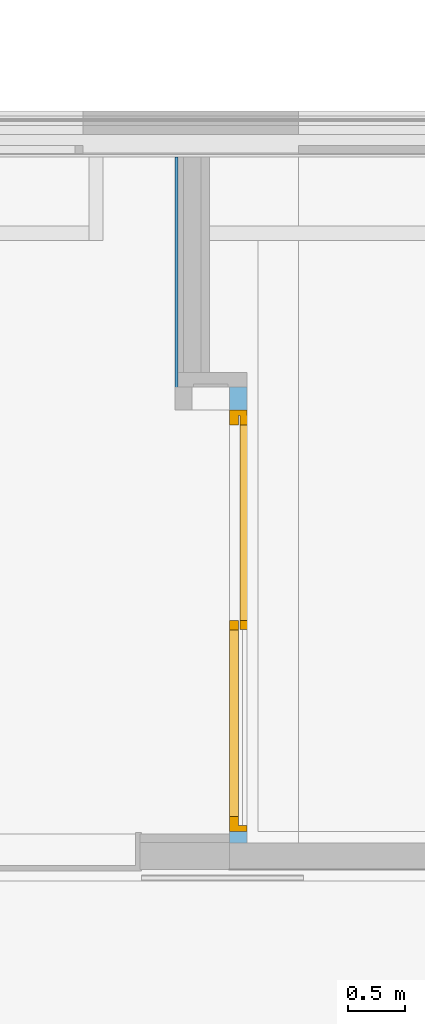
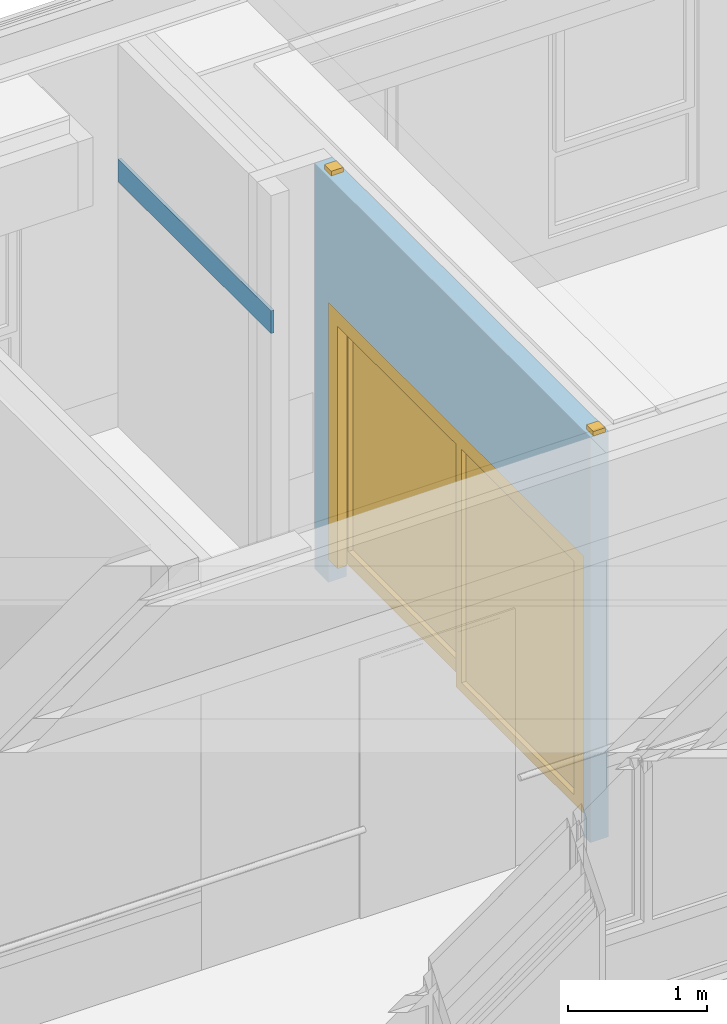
# One storey, part 117 of 207: 1 door, 1 wall, 1 opening, plus 1 element that does not belong to this part.
"""IFC4 building model written with IfcOpenShell, lengths in metres."""

import ifcopenshell
import ifcopenshell.guid

model = None  # the IFC model being written
_history = None  # IfcOwnerHistory: only IFC2X3 demands one
_inside = {}  # id of a spatial element -> (the spatial element, [elements in it])
_under = {}  # id of a project, library or spatial element -> (it, [spatial elements below it])
_declared = {}  # id of a project -> (the project, [libraries it declares])
_typed = {}  # id of a type object -> (the type object, [elements of that type])
_made_of = {}  # id of a material, layer set ... -> (it, [elements and type objects made of it])


def new_model(schema):
    """Start an empty IFC model of exactly this schema.

    Asked for "IFC4X3", IfcOpenShell would pick the latest addendum, in which some entities
    have other attributes; the version numbers below select the first issue.
    IFC2X3 requires an IfcOwnerHistory on every rooted entity: one is made here for all.
    """
    global model, _history
    if schema == "IFC4X3":
        model = ifcopenshell.file(schema_version=(4, 3, 0, 0))
    else:
        model = ifcopenshell.file(schema=schema)
    _inside.clear()
    _under.clear()
    _declared.clear()
    _typed.clear()
    _made_of.clear()
    _history = None
    if model.schema == "IFC2X3":
        org = make("IfcOrganization", Name="unknown")
        user = make(
            "IfcPersonAndOrganization",
            ThePerson=make("IfcPerson", FamilyName="unknown"),
            TheOrganization=org,
        )
        app = make(
            "IfcApplication",
            ApplicationDeveloper=org,
            Version="unknown",
            ApplicationFullName="unknown",
            ApplicationIdentifier="unknown",
        )
        _history = make(
            "IfcOwnerHistory",
            OwningUser=user,
            OwningApplication=app,
            ChangeAction="ADDED",
            CreationDate=0,
        )
    return model


def make(cls, **values):
    """One entity of the class cls with the attributes given. An attribute that is None is left unset."""
    return model.create_entity(
        cls, **{name: value for name, value in values.items() if value is not None}
    )


def entity(cls, *values):
    """Any entity or typed value of the class cls, its attributes in the order of the schema. None: left unset."""
    e = model.create_entity(cls)
    for i, value in enumerate(values):
        if value is not None:
            e[i] = value
    return e


def rooted(cls, **values):
    """An entity with a GlobalId (a new one), such as an element, a storey or a relation."""
    return make(cls, GlobalId=ifcopenshell.guid.new(), OwnerHistory=_history, **values)


def si_unit(unit_type, name, prefix=None):
    """IfcSIUnit, for example si_unit("LENGTHUNIT", "METRE", prefix="MILLI")."""
    return make("IfcSIUnit", UnitType=unit_type, Prefix=prefix, Name=name)


def converted_unit(unit_type, name, factor, base, dimensions=None, offset=None):
    """IfcConversionBasedUnit, such as the inch: factor (a typed value) times the base unit."""
    return make(
        "IfcConversionBasedUnit"
        if offset is None
        else "IfcConversionBasedUnitWithOffset",
        ConversionOffset=offset,
        Dimensions=None
        if dimensions is None
        else entity("IfcDimensionalExponents", *dimensions),
        UnitType=unit_type,
        Name=name,
        ConversionFactor=make(
            "IfcMeasureWithUnit", ValueComponent=factor, UnitComponent=base
        ),
    )


def derived_unit(unit_type, elements):
    """IfcDerivedUnit: a product of units, each with its exponent."""
    return make(
        "IfcDerivedUnit",
        Elements=[
            make("IfcDerivedUnitElement", Unit=unit, Exponent=power)
            for unit, power in elements
        ],
        UnitType=unit_type,
    )


def assignment(units):
    """IfcUnitAssignment: the units of a project."""
    return None if units is None else make("IfcUnitAssignment", Units=units)


def point(xyz):
    """IfcCartesianPoint."""
    return None if xyz is None else make("IfcCartesianPoint", Coordinates=xyz)


def direction(xyz):
    """IfcDirection."""
    return None if xyz is None else make("IfcDirection", DirectionRatios=xyz)


def frame(location, z_axis=None, x_axis=None):
    """IfcAxis2Placement3D, a coordinate frame: its origin and axes. An axis left out is left unset."""
    return make(
        "IfcAxis2Placement3D",
        Location=point(location),
        Axis=direction(z_axis),
        RefDirection=direction(x_axis),
    )


def frame_2d(location, x_axis=None):
    """IfcAxis2Placement2D, a coordinate frame in the plane: its origin and x axis."""
    return make(
        "IfcAxis2Placement2D", Location=point(location), RefDirection=direction(x_axis)
    )


def origin():
    """The frame at (0, 0, 0) with its axes left unset."""
    return frame((0.0, 0.0, 0.0))


def origin_with_axes():
    """The frame at (0, 0, 0) with the z axis (0, 0, 1) and the x axis (1, 0, 0) written out."""
    return frame((0.0, 0.0, 0.0), z_axis=(0.0, 0.0, 1.0), x_axis=(1.0, 0.0, 0.0))


def place(relative_to, where):
    """IfcLocalPlacement: puts the frame where relative to a parent placement (None: the world)."""
    return make(
        "IfcLocalPlacement", PlacementRelTo=relative_to, RelativePlacement=where
    )


def context(
    kind, dimensions, precision=None, world=None, true_north=None, identifier=None
):
    """IfcGeometricRepresentationContext, for example the 3D "Model" context."""
    return make(
        "IfcGeometricRepresentationContext",
        ContextIdentifier=identifier,
        ContextType=kind,
        CoordinateSpaceDimension=dimensions,
        Precision=precision,
        WorldCoordinateSystem=world,
        TrueNorth=true_north,
    )


def subcontext(parent, identifier, kind, view, scale=None):
    """IfcGeometricRepresentationSubContext, for example "Body" below "Model"."""
    return make(
        "IfcGeometricRepresentationSubContext",
        ContextIdentifier=identifier,
        ContextType=kind,
        ParentContext=parent,
        TargetScale=scale,
        TargetView=view,
    )


def project(units=None, contexts=None):
    """IfcProject with its units and contexts."""
    return rooted(
        "IfcProject",
        Name="project",
        RepresentationContexts=contexts,
        UnitsInContext=assignment(units),
    )


def spatial(cls, under=None, at=None, **own):
    """A site, building, storey or space (cls), placed at a placement, below another one or the project."""
    s = rooted(cls, ObjectPlacement=at, **own)
    if under is not None:
        _under.setdefault(under.id(), (under, []))[1].append(s)
    return s


def polyline(points):
    """IfcPolyline through the points."""
    return make("IfcPolyline", Points=[point(p) for p in points])


def profile(cls, at=None, kind="AREA", **sizes):
    """A parametric profile (cls). Its sizes go by their IFC names, for example OverallWidth=200.0."""
    return make(cls, ProfileType=kind, Position=at, **sizes)


def rectangle(**sizes):
    """IfcRectangleProfileDef."""
    return profile("IfcRectangleProfileDef", **sizes)


def outline(outer, holes=None, kind="AREA"):
    """IfcArbitraryClosedProfileDef: a profile drawn as a closed curve; with holes, ...WithVoids."""
    if holes is None:
        return make("IfcArbitraryClosedProfileDef", ProfileType=kind, OuterCurve=outer)
    return make(
        "IfcArbitraryProfileDefWithVoids",
        ProfileType=kind,
        OuterCurve=outer,
        InnerCurves=holes,
    )


def extrude(swept, where, along, depth):
    """IfcExtrudedAreaSolid: the profile swept, set in the frame where, extruded along a direction by depth."""
    return make(
        "IfcExtrudedAreaSolid",
        SweptArea=swept,
        Position=where,
        ExtrudedDirection=direction(along),
        Depth=depth,
    )


def faces_of(points, faces, orient=None, outer=None):
    """IfcFace entities. A face is a list of loops; a loop is a list of indices into points, from 0.

    orient and outer hold one flag for each loop. By default every Orientation is true, the
    first loop of a face is its IfcFaceOuterBound and the others are IfcFaceBound.
    """
    made = []
    for i, loops in enumerate(faces):
        bounds = []
        for j, loop in enumerate(loops):
            is_outer = j == 0 if outer is None else outer[i][j]
            bounds.append(
                make(
                    "IfcFaceOuterBound" if is_outer else "IfcFaceBound",
                    Bound=make("IfcPolyLoop", Polygon=[points[k] for k in loop]),
                    Orientation=True if orient is None else orient[i][j],
                )
            )
        made.append(make("IfcFace", Bounds=bounds))
    return made


def closed_shell(faces, orient=None, outer=None):
    """The faces of one IfcClosedShell. faceted_brep and surface_model build it on their shared points."""
    return ("IfcClosedShell", faces, orient, outer)


def open_shell(faces, orient=None, outer=None):
    """The faces of one IfcOpenShell. surface_model builds it on its shared points."""
    return ("IfcOpenShell", faces, orient, outer)


def faceted_brep(points, faces, orient=None, outer=None, voids=None):
    """IfcFacetedBrep: a solid bounded by flat faces; with voids (closed shells), ...WithVoids."""
    shared = [point(p) for p in points]
    hull = make("IfcClosedShell", CfsFaces=faces_of(shared, faces, orient, outer))
    if voids is None:
        return make("IfcFacetedBrep", Outer=hull)
    return make(
        "IfcFacetedBrepWithVoids",
        Outer=hull,
        Voids=[
            make(cls, CfsFaces=faces_of(shared, fs, o, b)) for cls, fs, o, b in voids
        ],
    )


def surface_model(cls, points, shells):
    """IfcFaceBasedSurfaceModel or IfcShellBasedSurfaceModel (cls): surfaces that need not close."""
    shared = [point(p) for p in points]
    made = [make(c, CfsFaces=faces_of(shared, fs, o, b)) for c, fs, o, b in shells]
    if cls == "IfcFaceBasedSurfaceModel":
        return make(cls, FbsmFaces=made)
    return make(cls, SbsmBoundary=made)


def shape(context_of_items, identifier, shape_type, items):
    """IfcShapeRepresentation: the items that make up one representation, for example the "Body"."""
    return make(
        "IfcShapeRepresentation",
        ContextOfItems=context_of_items,
        RepresentationIdentifier=identifier,
        RepresentationType=shape_type,
        Items=items,
    )


def source(mapping_origin, context_of_items, identifier, shape_type, items):
    """IfcRepresentationMap: a shape defined once, which mapped items show again and again."""
    return make(
        "IfcRepresentationMap",
        MappingOrigin=mapping_origin,
        MappedRepresentation=shape(context_of_items, identifier, shape_type, items),
    )


def transform(
    local_origin,
    x_axis=None,
    y_axis=None,
    z_axis=None,
    scale=None,
    scale2=None,
    scale3=None,
    uniform=True,
):
    """IfcCartesianTransformationOperator3D, or its non-uniform kind. x_axis, y_axis, z_axis: its Axis1, 2, 3."""
    if uniform:
        return make(
            "IfcCartesianTransformationOperator3D",
            Axis1=direction(x_axis),
            Axis2=direction(y_axis),
            LocalOrigin=point(local_origin),
            Scale=scale,
            Axis3=direction(z_axis),
        )
    return make(
        "IfcCartesianTransformationOperator3DnonUniform",
        Axis1=direction(x_axis),
        Axis2=direction(y_axis),
        LocalOrigin=point(local_origin),
        Scale=scale,
        Axis3=direction(z_axis),
        Scale2=scale2,
        Scale3=scale3,
    )


def mapped(mapping_source, mapping_target):
    """IfcMappedItem: shows the shape of a source again, moved by a transform."""
    return make(
        "IfcMappedItem", MappingSource=mapping_source, MappingTarget=mapping_target
    )


def material(Name=None, Category=None):
    """IfcMaterial."""
    return make("IfcMaterial", Name=Name, Category=Category)


def made_of(thing, what):
    """Note that an element or type object is made of a material, layer set ...; save() writes the relation."""
    if what is not None:
        _made_of.setdefault(what.id(), (what, []))[1].append(thing)
    return thing


def element(
    cls,
    number,
    at=None,
    inside=None,
    cuts=None,
    type_object=None,
    material=None,
    context=None,
    identifier="Body",
    shape_type=None,
    held_by="IfcProductDefinitionShape",
    body=None,
    shapes=None,
    **own,
):
    """One element of the class cls, such as IfcWall. Its Tag is "e" and its number.

    at: its placement. inside: the storey or other place that contains it. cuts: it is an
    opening in that element (IfcRelVoidsElement). A single representation is given by context,
    identifier, shape_type and body (its items); several are given by shapes. held_by: the class
    of the entity that holds the representations. save() writes the other relations.
    """
    e = rooted(cls, Tag="e%d" % number, ObjectPlacement=at, **own)
    if body is not None:
        shapes = [shape(context, identifier, shape_type, body)]
    if shapes is not None:
        e.Representation = make(held_by, Representations=shapes)
    if inside is not None:
        _inside.setdefault(inside.id(), (inside, []))[1].append(e)
    if cuts is not None:
        rooted(
            "IfcRelVoidsElement", RelatingBuildingElement=cuts, RelatedOpeningElement=e
        )
    if type_object is not None:
        _typed.setdefault(type_object.id(), (type_object, []))[1].append(e)
    return made_of(e, material)


def fill(opening, filler):
    """IfcRelFillsElement: the door or window that sits in an opening."""
    return rooted(
        "IfcRelFillsElement",
        RelatingOpeningElement=opening,
        RelatedBuildingElement=filler,
    )


def aggregate(whole, parts):
    """IfcRelAggregates: a whole, such as a stair, and the parts it consists of."""
    return rooted("IfcRelAggregates", RelatingObject=whole, RelatedObjects=parts)


def save(model, path):
    """Write the relations noted so far, then the file.

    IfcRelAggregates (storeys below a building ...), IfcRelContainedInSpatialStructure (elements
    in a storey), IfcRelDefinesByType, IfcRelAssociatesMaterial and IfcRelDeclares: one each for
    every whole, place, type object, material and project.
    """
    for whole, parts in _under.values():
        aggregate(whole, parts)
    for where, things in _inside.values():
        rooted(
            "IfcRelContainedInSpatialStructure",
            RelatedElements=things,
            RelatingStructure=where,
        )
    for kind, things in _typed.values():
        rooted("IfcRelDefinesByType", RelatedObjects=things, RelatingType=kind)
    for what, things in _made_of.values():
        rooted("IfcRelAssociatesMaterial", RelatedObjects=things, RelatingMaterial=what)
    for by, libraries in _declared.values():
        rooted("IfcRelDeclares", RelatingContext=by, RelatedDefinitions=libraries)
    model.write(path)


model = new_model("IFC4")

# Units and contexts
model_context = context("Model", 3, precision=1e-05, world=origin())
body_context = subcontext(model_context, "Body", "Model", "MODEL_VIEW")
ifc_project = project(units=[si_unit("LENGTHUNIT", "METRE"), si_unit("AREAUNIT", "SQUARE_METRE"), si_unit("VOLUMEUNIT", "CUBIC_METRE"), si_unit("MASSUNIT", "GRAM", prefix="KILO"), converted_unit("PLANEANGLEUNIT", "DEGREE", entity("IfcPlaneAngleMeasure", 0.0174532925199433), si_unit("PLANEANGLEUNIT", "RADIAN"), dimensions=[0, 0, 0, 0, 0, 0, 0]), derived_unit("THERMALTRANSMITTANCEUNIT", [(si_unit("POWERUNIT", "WATT"), 1), (si_unit("THERMODYNAMICTEMPERATUREUNIT", "KELVIN"), -1), (si_unit("LENGTHUNIT", "METRE"), -2)]), derived_unit("VOLUMETRICFLOWRATEUNIT", [(si_unit("LENGTHUNIT", "METRE"), 3), (converted_unit("TIMEUNIT", "hour", entity("IfcTimeMeasure", 3600.0), si_unit("TIMEUNIT", "SECOND"), dimensions=[0, 0, 1, 0, 0, 0, 0]), -1), (si_unit("LENGTHUNIT", "METRE"), -1)])], contexts=[model_context])

# Site, building, storey
site_placement = place(None, origin())
site = spatial("IfcSite", under=ifc_project, at=site_placement, Name="Psychiatrie Neubau Wunstorf", CompositionType="ELEMENT")
building_placement = place(site_placement, origin())
building = spatial("IfcBuilding", under=site, at=building_placement, Name="Neubau H2 Stationsgebäude", CompositionType="ELEMENT")
storey_placement = place(building_placement, frame((0.0, 0.0, -0.2)))
storey = spatial("IfcBuildingStorey", under=building, at=storey_placement, Name="H2 Ebene 0", CompositionType="ELEMENT", Elevation=-0.2)

# Wall
wall_1_placement = place(storey_placement, frame((60.989, 26.8639996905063, 2.35)))
element("IfcWall", 1, at=wall_1_placement, inside=storey, Name="WV 1.1", context=body_context, shape_type="Brep", body=[
    faceted_brep([(0.025, 2.2, 0.0), (0.0, 2.2, 0.0), (0.0, 0.0, 0.0), (0.025, 0.0, 0.0), (0.0, 2.2, 0.2), (0.025, 2.2, 0.2), (0.025, 0.0, 0.2), (0.0, 0.0, 0.2)], [[[0, 1, 2, 3]], [[4, 5, 6, 7]], [[1, 0, 5, 4]], [[2, 1, 4, 7]], [[3, 2, 7, 6]], [[0, 3, 6, 5]]], orient=[[False], [False], [False], [False], [False], [False]]),
])

# Wall, opening, door
ifc_material_1 = material(Name="WI-LB")
wall_2_placement = place(storey_placement, frame((61.464, 27.0639996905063, 0.0), z_axis=(0.0, 0.0, 1.0), x_axis=(0.0, -1.0, 0.0)))
wall_2 = element("IfcWall", 2, at=wall_2_placement, inside=storey, material=ifc_material_1, context=body_context, shape_type="SweptSolid", body=[
    extrude(rectangle(XDim=3.9679996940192, YDim=0.15, at=frame_2d((1.9839998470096, 0.075), x_axis=(1.0, 0.0))), origin_with_axes(), (0.0, 0.0, 1.0), 3.56),
])
opening_placement = place(wall_2_placement, frame((0.199999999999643, 0.0, 0.0), z_axis=(0.0, 1.0, 0.0), x_axis=(0.0, 0.0, 1.0)))
opening = element("IfcOpeningElement", 3, at=opening_placement, cuts=wall_2, Name="Türöffnung", ObjectType="Opening", context=body_context, shape_type="SweptSolid", body=[
    extrude(outline(polyline([(2.46, 3.667), (2.46, 0.0), (0.0, 0.0), (0.0, 3.667), (2.46, 3.667)])), origin_with_axes(), (0.0, 0.0, 1.0), 0.15),
])
ifc_material_2 = material(Name="TI-1F-AG-S")
shared_shape_1 = source(origin_with_axes(), body_context, "Body", "Brep", [
    faceted_brep([(3.7669999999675, 0.0249999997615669, 0.0), (3.7669999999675, 0.124999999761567, 0.0), (3.66700000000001, 0.124999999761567, 0.0), (3.66700000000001, 0.0249999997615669, 0.0), (3.7669999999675, 0.124999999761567, 3.6), (3.7669999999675, 0.0249999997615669, 3.6), (3.66700000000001, 0.0249999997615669, 3.6), (3.66700000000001, 0.124999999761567, 3.6)], [[[0, 1, 2, 3]], [[4, 5, 6, 7]], [[1, 0, 5, 4]], [[2, 1, 4, 7]], [[3, 2, 7, 6]], [[0, 3, 6, 5]]], orient=[[False], [False], [False], [False], [False], [False]]),
    faceted_brep([(0.0, 0.0249999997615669, 0.0), (0.0, 0.124999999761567, 0.0), (-0.0999999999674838, 0.124999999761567, 0.0), (-0.0999999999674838, 0.0249999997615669, 0.0), (0.0, 0.124999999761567, 3.6), (0.0, 0.0249999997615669, 3.6), (-0.0999999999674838, 0.0249999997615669, 3.6), (-0.0999999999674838, 0.124999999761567, 3.6)], [[[0, 1, 2, 3]], [[4, 5, 6, 7]], [[1, 0, 5, 4]], [[2, 1, 4, 7]], [[3, 2, 7, 6]], [[0, 3, 6, 5]]], orient=[[False], [False], [False], [False], [False], [False]]),
    faceted_brep([(3.66700000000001, 0.0249999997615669, 2.46), (3.66700000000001, 0.124999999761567, 2.46), (0.0, 0.124999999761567, 2.46), (0.0, 0.0249999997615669, 2.46), (3.66700000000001, 0.124999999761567, 2.56), (3.66700000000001, 0.0249999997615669, 2.56), (0.0, 0.0249999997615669, 2.56), (0.0, 0.124999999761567, 2.56)], [[[0, 1, 2, 3]], [[4, 5, 6, 7]], [[1, 0, 5, 4]], [[2, 1, 4, 7]], [[3, 2, 7, 6]], [[0, 3, 6, 5]]], orient=[[False], [False], [False], [False], [False], [False]]),
])
shared_shape_2 = source(origin_with_axes(), body_context, "Body", "SurfaceModel", [
    surface_model("IfcShellBasedSurfaceModel", [(0.0, 0.150000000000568, 2.46), (0.0, 0.150000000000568, 0.2), (0.0500000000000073, 0.150000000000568, 0.2), (0.0500000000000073, 0.150000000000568, 2.46), (0.0, 0.0, 0.2), (0.0, 0.0, 2.46), (0.0500000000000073, 0.0, 2.46), (0.0500000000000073, 0.0, 0.2)], [closed_shell([[[0, 1, 2, 3]], [[4, 5, 6, 7]], [[1, 0, 5, 4]], [[2, 1, 4, 7]], [[3, 2, 7, 6]], [[0, 3, 6, 5]]], orient=[[False], [False], [False], [False], [False], [False]])]),
    surface_model("IfcShellBasedSurfaceModel", [(3.61700000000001, 0.150000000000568, 2.46), (3.61700000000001, 0.150000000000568, 0.2), (3.66700000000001, 0.150000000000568, 0.2), (3.66700000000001, 0.150000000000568, 2.46), (3.61700000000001, 0.0, 0.2), (3.61700000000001, 0.0, 2.46), (3.66700000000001, 0.0, 2.46), (3.66700000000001, 0.0, 0.2)], [closed_shell([[[0, 1, 2, 3]], [[4, 5, 6, 7]], [[1, 0, 5, 4]], [[2, 1, 4, 7]], [[3, 2, 7, 6]], [[0, 3, 6, 5]]], orient=[[False], [False], [False], [False], [False], [False]])]),
    surface_model("IfcShellBasedSurfaceModel", [(0.0500000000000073, 0.150000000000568, 2.46), (0.0500000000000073, 0.150000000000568, 2.41), (3.61700000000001, 0.150000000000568, 2.41), (3.61700000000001, 0.150000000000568, 2.46), (0.0500000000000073, 0.0, 2.41), (0.0500000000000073, 0.0, 2.46), (3.61700000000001, 0.0, 2.46), (3.61700000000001, 0.0, 2.41)], [closed_shell([[[0, 1, 2, 3]], [[4, 5, 6, 7]], [[1, 0, 5, 4]], [[2, 1, 4, 7]], [[3, 2, 7, 6]], [[0, 3, 6, 5]]], orient=[[False], [False], [False], [False], [False], [False]])]),
    surface_model("IfcShellBasedSurfaceModel", [(0.0500000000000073, 0.0800000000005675, 2.41), (0.0500000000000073, 0.0800000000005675, 0.2), (0.130000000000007, 0.0800000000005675, 0.2), (0.130000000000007, 0.0800000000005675, 2.41), (0.0500000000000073, 0.0, 0.2), (0.0500000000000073, 0.0, 2.41), (0.130000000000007, 0.0, 2.41), (0.130000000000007, 0.0, 0.2)], [closed_shell([[[0, 1, 2, 3]], [[4, 5, 6, 7]], [[1, 0, 5, 4]], [[2, 1, 4, 7]], [[3, 2, 7, 6]], [[0, 3, 6, 5]]], orient=[[False], [False], [False], [False], [False], [False]])]),
    surface_model("IfcShellBasedSurfaceModel", [(3.53700000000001, 0.0800000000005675, 2.41), (3.53700000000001, 0.0800000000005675, 0.2), (3.61700000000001, 0.0800000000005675, 0.2), (3.61700000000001, 0.0800000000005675, 2.41), (3.53700000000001, 0.0, 0.2), (3.53700000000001, 0.0, 2.41), (3.61700000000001, 0.0, 2.41), (3.61700000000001, 0.0, 0.2)], [closed_shell([[[0, 1, 2, 3]], [[4, 5, 6, 7]], [[1, 0, 5, 4]], [[2, 1, 4, 7]], [[3, 2, 7, 6]], [[0, 3, 6, 5]]], orient=[[False], [False], [False], [False], [False], [False]])]),
    surface_model("IfcShellBasedSurfaceModel", [(0.130000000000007, 0.0800000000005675, 2.41), (0.130000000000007, 0.0800000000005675, 2.33), (3.53700000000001, 0.0800000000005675, 2.33), (3.53700000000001, 0.0800000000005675, 2.41), (0.130000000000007, 0.0, 2.33), (0.130000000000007, 0.0, 2.41), (3.53700000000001, 0.0, 2.41), (3.53700000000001, 0.0, 2.33)], [closed_shell([[[0, 1, 2, 3]], [[4, 5, 6, 7]], [[1, 0, 5, 4]], [[2, 1, 4, 7]], [[3, 2, 7, 6]], [[0, 3, 6, 5]]], orient=[[False], [False], [False], [False], [False], [False]])]),
    surface_model("IfcShellBasedSurfaceModel", [(0.0500000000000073, 0.170000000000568, 2.41), (0.0500000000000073, 0.170000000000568, 0.2), (0.130000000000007, 0.170000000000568, 0.2), (0.130000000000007, 0.170000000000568, 2.41), (0.0500000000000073, 0.0900000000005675, 0.2), (0.0500000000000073, 0.0900000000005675, 2.41), (0.130000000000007, 0.0900000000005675, 2.41), (0.130000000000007, 0.0900000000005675, 0.2)], [closed_shell([[[0, 1, 2, 3]], [[4, 5, 6, 7]], [[1, 0, 5, 4]], [[2, 1, 4, 7]], [[3, 2, 7, 6]], [[0, 3, 6, 5]]], orient=[[False], [False], [False], [False], [False], [False]])]),
    surface_model("IfcShellBasedSurfaceModel", [(1.83300000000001, 0.170000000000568, 2.41), (1.83300000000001, 0.170000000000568, 0.2), (1.91300000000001, 0.170000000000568, 0.2), (1.91300000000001, 0.170000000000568, 2.41), (1.83300000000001, 0.0900000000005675, 0.2), (1.83300000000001, 0.0900000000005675, 2.41), (1.91300000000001, 0.0900000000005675, 2.41), (1.91300000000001, 0.0900000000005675, 0.2)], [closed_shell([[[0, 1, 2, 3]], [[4, 5, 6, 7]], [[1, 0, 5, 4]], [[2, 1, 4, 7]], [[3, 2, 7, 6]], [[0, 3, 6, 5]]], orient=[[False], [False], [False], [False], [False], [False]])]),
    surface_model("IfcShellBasedSurfaceModel", [(0.130000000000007, 0.170000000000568, 0.32), (0.130000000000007, 0.170000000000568, 0.2), (1.83300000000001, 0.170000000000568, 0.2), (1.83300000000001, 0.170000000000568, 0.32), (0.130000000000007, 0.0900000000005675, 0.2), (0.130000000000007, 0.0900000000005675, 0.32), (1.83300000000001, 0.0900000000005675, 0.32), (1.83300000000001, 0.0900000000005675, 0.2)], [closed_shell([[[0, 1, 2, 3]], [[4, 5, 6, 7]], [[1, 0, 5, 4]], [[2, 1, 4, 7]], [[3, 2, 7, 6]], [[0, 3, 6, 5]]], orient=[[False], [False], [False], [False], [False], [False]])]),
    surface_model("IfcShellBasedSurfaceModel", [(0.130000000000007, 0.170000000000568, 2.41), (0.130000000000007, 0.170000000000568, 2.33), (1.83300000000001, 0.170000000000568, 2.33), (1.83300000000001, 0.170000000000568, 2.41), (0.130000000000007, 0.0900000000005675, 2.33), (0.130000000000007, 0.0900000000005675, 2.41), (1.83300000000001, 0.0900000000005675, 2.41), (1.83300000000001, 0.0900000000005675, 2.33)], [closed_shell([[[0, 1, 2, 3]], [[4, 5, 6, 7]], [[1, 0, 5, 4]], [[2, 1, 4, 7]], [[3, 2, 7, 6]], [[0, 3, 6, 5]]], orient=[[False], [False], [False], [False], [False], [False]])]),
    surface_model("IfcShellBasedSurfaceModel", [(1.83400000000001, 0.0800000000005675, 2.33), (1.83400000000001, 0.0800000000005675, 0.2), (1.91400000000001, 0.0800000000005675, 0.2), (1.91400000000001, 0.0800000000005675, 2.33), (1.83400000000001, 0.0, 0.2), (1.83400000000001, 0.0, 2.33), (1.91400000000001, 0.0, 2.33), (1.91400000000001, 0.0, 0.2)], [closed_shell([[[0, 1, 2, 3]], [[4, 5, 6, 7]], [[1, 0, 5, 4]], [[2, 1, 4, 7]], [[3, 2, 7, 6]], [[0, 3, 6, 5]]], orient=[[False], [False], [False], [False], [False], [False]])]),
    surface_model("IfcShellBasedSurfaceModel", [(1.91400000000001, 0.0800000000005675, 0.28), (1.91400000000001, 0.0800000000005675, 0.2), (3.53700000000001, 0.0800000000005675, 0.2), (3.53700000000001, 0.0800000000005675, 0.28), (1.91400000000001, 0.0, 0.2), (1.91400000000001, 0.0, 0.28), (3.53700000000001, 0.0, 0.28), (3.53700000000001, 0.0, 0.2)], [closed_shell([[[0, 1, 2, 3]], [[4, 5, 6, 7]], [[1, 0, 5, 4]], [[2, 1, 4, 7]], [[3, 2, 7, 6]], [[0, 3, 6, 5]]], orient=[[False], [False], [False], [False], [False], [False]])]),
    surface_model("IfcShellBasedSurfaceModel", [(1.91400000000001, 0.0400000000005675, 0.28), (3.53700000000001, 0.0400000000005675, 0.28), (3.53700000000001, 0.0400000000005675, 2.33), (1.91400000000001, 0.0400000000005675, 2.33)], [open_shell([[[0, 1, 2, 3]]], orient=[[False]])]),
    surface_model("IfcShellBasedSurfaceModel", [(0.130000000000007, 0.130000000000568, 0.32), (1.83300000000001, 0.130000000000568, 0.32), (1.83300000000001, 0.130000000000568, 2.33), (0.130000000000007, 0.130000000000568, 2.33)], [open_shell([[[0, 1, 2, 3]]], orient=[[False]])]),
])
door_placement = place(opening_placement, frame((0.0, 0.0, 0.0), z_axis=(1.0, 0.0, 0.0), x_axis=(0.0, 1.0, 0.0)))
door = element("IfcDoor", 4, at=door_placement, inside=storey, material=ifc_material_2, Name="SMT", OperationType="USERDEFINED", OverallHeight=2.46, OverallWidth=3.667, PredefinedType="DOOR", context=body_context, shape_type="MappedRepresentation", body=[
    mapped(shared_shape_1, transform((0.0, 0.0, 0.0), x_axis=(1.0, 0.0, 0.0), y_axis=(0.0, 1.0, 0.0), z_axis=(0.0, 0.0, 1.0), scale=1.0)),
    mapped(shared_shape_2, transform((0.0, 0.0, 0.0), x_axis=(1.0, 0.0, 0.0), y_axis=(0.0, 1.0, 0.0), z_axis=(0.0, 0.0, 1.0), scale=1.0)),
])
fill(opening, door)

save(model, "model.ifc")
